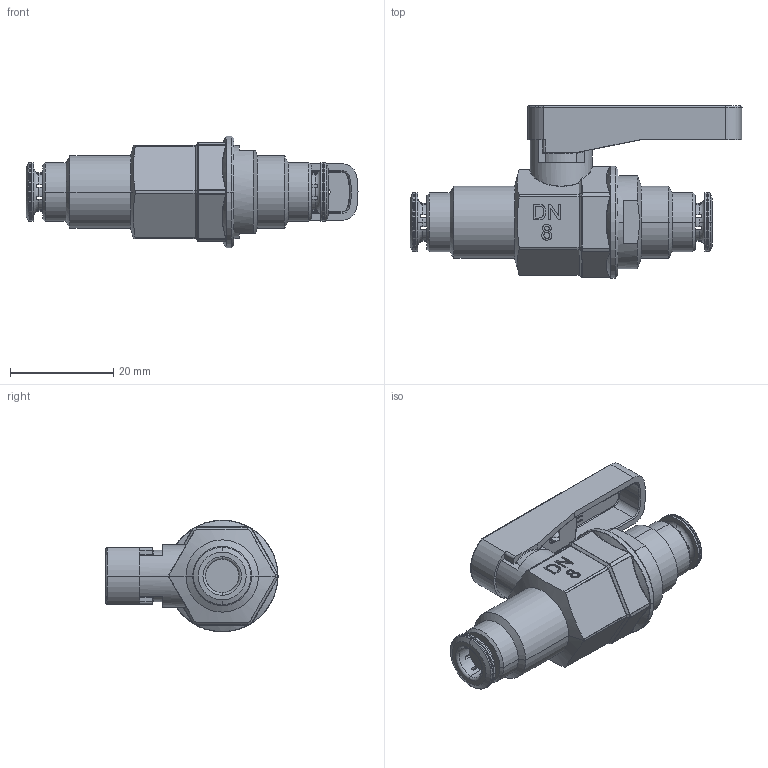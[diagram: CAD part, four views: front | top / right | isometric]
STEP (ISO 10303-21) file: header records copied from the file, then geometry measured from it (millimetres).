
FILE_DESCRIPTION (( 'STEP AP214' ), '1' );
FILE_NAME ('84320H0001.STEP', '2019-12-11T12:35:49', ( '' ), ( '' ), 'SwSTEP 2.0', 'SolidWorks 2016', '' );
FILE_SCHEMA (( 'AUTOMOTIVE_DESIGN' ));
Length unit declared in the file: millimetre
Products named in the file (1): 84320H0001
Bounding box: 64.25 x 33.3 x 21.6 mm (x, y, z)
Volume: 13521.5 mm3; surface area: 6002.7 mm2
Topology: 3 solids, 14 shells, 784 faces, 2003 edges, 1230 vertices
Faces by surface type: plane 315, cylinder 178, bspline 155, torus 79, cone 46, sphere 11
Entity records: 36977 total; most frequent: CARTESIAN_POINT 10588, ORIENTED_EDGE 3944, DIRECTION 3396, EDGE_CURVE 1972, VERTEX_POINT 1230, AXIS2_PLACEMENT_3D 1226, LINE 944, VECTOR 944
